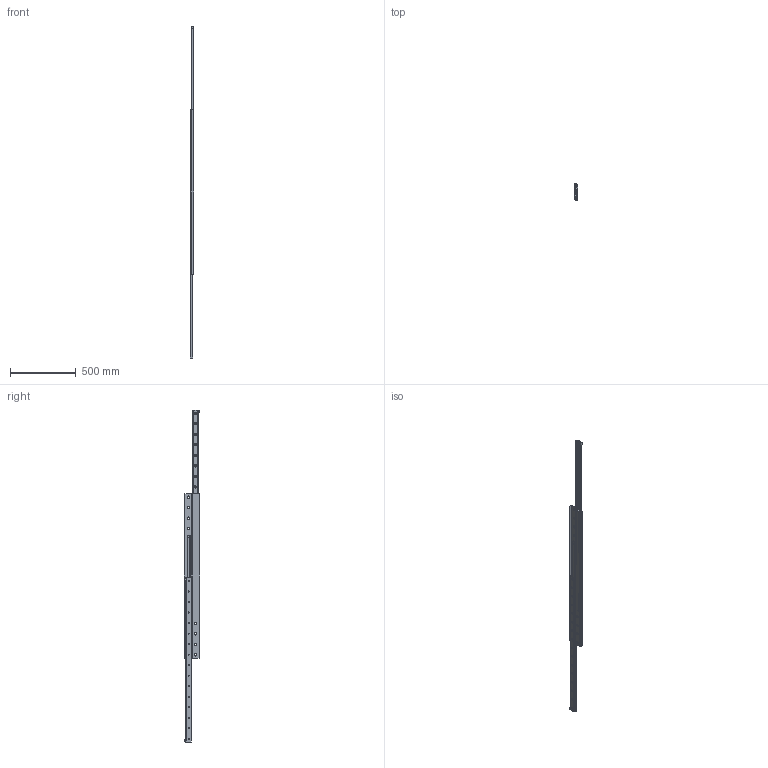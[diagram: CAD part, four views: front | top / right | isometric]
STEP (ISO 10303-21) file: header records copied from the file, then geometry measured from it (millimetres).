
FILE_DESCRIPTION(('STEP AP214'),'1');
FILE_NAME('rail_dss43-1250_01.stp','2017-04-17T03:59:22',('TraceParts'),('TraceParts S.A.'),'Spatial InterOp 3D',' ',' ');
FILE_SCHEMA(('automotive_design'));
Length unit declared in the file: millimetre
Products named in the file (3): rail_dss43-1250_01_1; rail_dss43-1250_01_2; rail_dss43-1250_01_3
Bounding box: 28 x 120 x 2526 mm (x, y, z)
Volume: 2217561.2 mm3; surface area: 893208.5 mm2
Topology: 3 solids, 3 shells, 334 faces, 890 edges, 572 vertices
Faces by surface type: plane 138, cylinder 132, cone 64
Entity records: 10631 total; most frequent: DIRECTION 1908, CARTESIAN_POINT 1799, ORIENTED_EDGE 1780, EDGE_CURVE 890, AXIS2_PLACEMENT_3D 681, VERTEX_POINT 572, LINE 546, VECTOR 546
